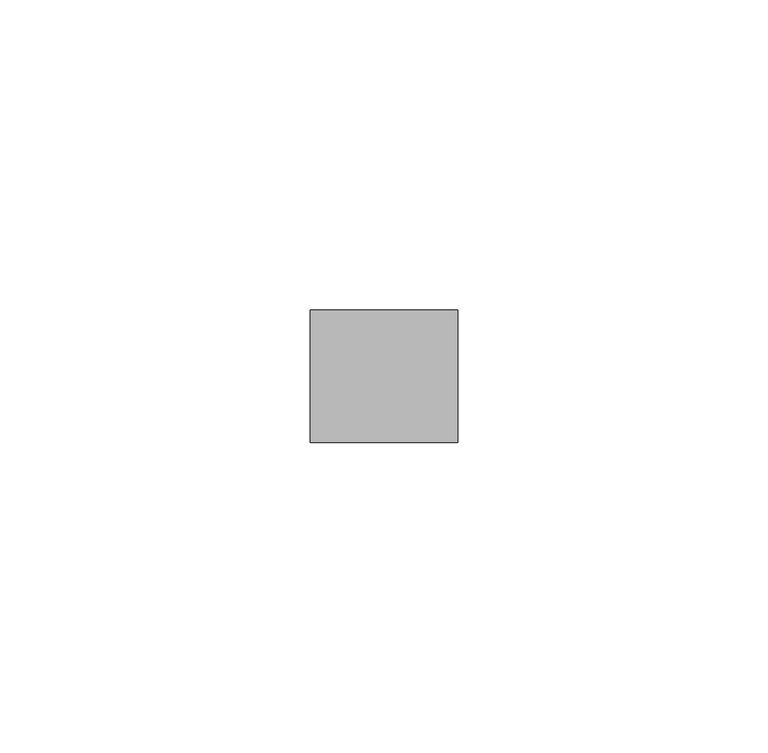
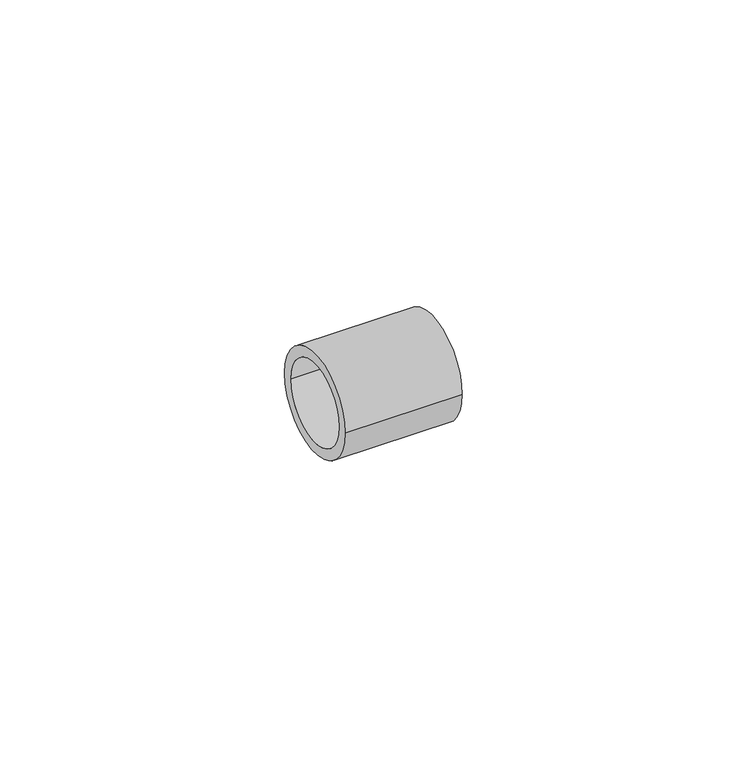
"""IFC4 building model written with IfcOpenShell, lengths in millimetres: pipe fitting geometry, RAUTITAN_Sleeve PX : RTI S PX."""

import ifcopenshell
import ifcopenshell.guid

model = None  # the IFC model being written
_history = None  # IfcOwnerHistory: only IFC2X3 demands one
_inside = {}  # id of a spatial element -> (the spatial element, [elements in it])
_under = {}  # id of a project, library or spatial element -> (it, [spatial elements below it])
_declared = {}  # id of a project -> (the project, [libraries it declares])
_typed = {}  # id of a type object -> (the type object, [elements of that type])
_made_of = {}  # id of a material, layer set ... -> (it, [elements and type objects made of it])


def new_model(schema):
    """Start an empty IFC model of exactly this schema.

    Asked for "IFC4X3", IfcOpenShell would pick the latest addendum, in which some entities
    have other attributes; the version numbers below select the first issue.
    IFC2X3 requires an IfcOwnerHistory on every rooted entity: one is made here for all.
    """
    global model, _history
    if schema == "IFC4X3":
        model = ifcopenshell.file(schema_version=(4, 3, 0, 0))
    else:
        model = ifcopenshell.file(schema=schema)
    _inside.clear()
    _under.clear()
    _declared.clear()
    _typed.clear()
    _made_of.clear()
    _history = None
    if model.schema == "IFC2X3":
        org = make("IfcOrganization", Name="unknown")
        user = make(
            "IfcPersonAndOrganization",
            ThePerson=make("IfcPerson", FamilyName="unknown"),
            TheOrganization=org,
        )
        app = make(
            "IfcApplication",
            ApplicationDeveloper=org,
            Version="unknown",
            ApplicationFullName="unknown",
            ApplicationIdentifier="unknown",
        )
        _history = make(
            "IfcOwnerHistory",
            OwningUser=user,
            OwningApplication=app,
            ChangeAction="ADDED",
            CreationDate=0,
        )
    return model


def make(cls, **values):
    """One entity of the class cls with the attributes given. An attribute that is None is left unset."""
    return model.create_entity(
        cls, **{name: value for name, value in values.items() if value is not None}
    )


def rooted(cls, **values):
    """An entity with a GlobalId (a new one), such as an element, a storey or a relation."""
    return make(cls, GlobalId=ifcopenshell.guid.new(), OwnerHistory=_history, **values)


def si_unit(unit_type, name, prefix=None):
    """IfcSIUnit, for example si_unit("LENGTHUNIT", "METRE", prefix="MILLI")."""
    return make("IfcSIUnit", UnitType=unit_type, Prefix=prefix, Name=name)


def assignment(units):
    """IfcUnitAssignment: the units of a project."""
    return None if units is None else make("IfcUnitAssignment", Units=units)


def point(xyz):
    """IfcCartesianPoint."""
    return None if xyz is None else make("IfcCartesianPoint", Coordinates=xyz)


def direction(xyz):
    """IfcDirection."""
    return None if xyz is None else make("IfcDirection", DirectionRatios=xyz)


def frame(location, z_axis=None, x_axis=None):
    """IfcAxis2Placement3D, a coordinate frame: its origin and axes. An axis left out is left unset."""
    return make(
        "IfcAxis2Placement3D",
        Location=point(location),
        Axis=direction(z_axis),
        RefDirection=direction(x_axis),
    )


def frame_2d(location, x_axis=None):
    """IfcAxis2Placement2D, a coordinate frame in the plane: its origin and x axis."""
    return make(
        "IfcAxis2Placement2D", Location=point(location), RefDirection=direction(x_axis)
    )


def origin():
    """The frame at (0, 0, 0) with its axes left unset."""
    return frame((0.0, 0.0, 0.0))


def origin_2d():
    """The frame at (0, 0) in the plane with its x axis left unset."""
    return frame_2d((0.0, 0.0))


def place(relative_to, where):
    """IfcLocalPlacement: puts the frame where relative to a parent placement (None: the world)."""
    return make(
        "IfcLocalPlacement", PlacementRelTo=relative_to, RelativePlacement=where
    )


def context(
    kind, dimensions, precision=None, world=None, true_north=None, identifier=None
):
    """IfcGeometricRepresentationContext, for example the 3D "Model" context."""
    return make(
        "IfcGeometricRepresentationContext",
        ContextIdentifier=identifier,
        ContextType=kind,
        CoordinateSpaceDimension=dimensions,
        Precision=precision,
        WorldCoordinateSystem=world,
        TrueNorth=true_north,
    )


def project(units=None, contexts=None):
    """IfcProject with its units and contexts."""
    return rooted(
        "IfcProject",
        Name="project",
        RepresentationContexts=contexts,
        UnitsInContext=assignment(units),
    )


def spatial(cls, under=None, at=None, **own):
    """A site, building, storey or space (cls), placed at a placement, below another one or the project."""
    s = rooted(cls, ObjectPlacement=at, **own)
    if under is not None:
        _under.setdefault(under.id(), (under, []))[1].append(s)
    return s


def circle_curve(where, radius):
    """IfcCircle in the frame where."""
    return make("IfcCircle", Position=where, Radius=radius)


def trimmed(basis, trim1, trim2, sense, master):
    """IfcTrimmedCurve: the piece of a basis curve between two trims."""
    return make(
        "IfcTrimmedCurve",
        BasisCurve=basis,
        Trim1=trim1,
        Trim2=trim2,
        SenseAgreement=sense,
        MasterRepresentation=master,
    )


def segment(curve, same_sense, transition):
    """IfcCompositeCurveSegment."""
    return make(
        "IfcCompositeCurveSegment",
        Transition=transition,
        SameSense=same_sense,
        ParentCurve=curve,
    )


def composite_curve(segments, self_intersect=None):
    """IfcCompositeCurve: segments joined end to end."""
    return make("IfcCompositeCurve", Segments=segments, SelfIntersect=self_intersect)


def outline(outer, holes=None, kind="AREA"):
    """IfcArbitraryClosedProfileDef: a profile drawn as a closed curve; with holes, ...WithVoids."""
    if holes is None:
        return make("IfcArbitraryClosedProfileDef", ProfileType=kind, OuterCurve=outer)
    return make(
        "IfcArbitraryProfileDefWithVoids",
        ProfileType=kind,
        OuterCurve=outer,
        InnerCurves=holes,
    )


def extrude(swept, where, along, depth):
    """IfcExtrudedAreaSolid: the profile swept, set in the frame where, extruded along a direction by depth."""
    return make(
        "IfcExtrudedAreaSolid",
        SweptArea=swept,
        Position=where,
        ExtrudedDirection=direction(along),
        Depth=depth,
    )


def shape(context_of_items, identifier, shape_type, items):
    """IfcShapeRepresentation: the items that make up one representation, for example the "Body"."""
    return make(
        "IfcShapeRepresentation",
        ContextOfItems=context_of_items,
        RepresentationIdentifier=identifier,
        RepresentationType=shape_type,
        Items=items,
    )


def source(mapping_origin, context_of_items, identifier, shape_type, items):
    """IfcRepresentationMap: a shape defined once, which mapped items show again and again."""
    return make(
        "IfcRepresentationMap",
        MappingOrigin=mapping_origin,
        MappedRepresentation=shape(context_of_items, identifier, shape_type, items),
    )


def transform(
    local_origin,
    x_axis=None,
    y_axis=None,
    z_axis=None,
    scale=None,
    scale2=None,
    scale3=None,
    uniform=True,
):
    """IfcCartesianTransformationOperator3D, or its non-uniform kind. x_axis, y_axis, z_axis: its Axis1, 2, 3."""
    if uniform:
        return make(
            "IfcCartesianTransformationOperator3D",
            Axis1=direction(x_axis),
            Axis2=direction(y_axis),
            LocalOrigin=point(local_origin),
            Scale=scale,
            Axis3=direction(z_axis),
        )
    return make(
        "IfcCartesianTransformationOperator3DnonUniform",
        Axis1=direction(x_axis),
        Axis2=direction(y_axis),
        LocalOrigin=point(local_origin),
        Scale=scale,
        Axis3=direction(z_axis),
        Scale2=scale2,
        Scale3=scale3,
    )


def mapped(mapping_source, mapping_target):
    """IfcMappedItem: shows the shape of a source again, moved by a transform."""
    return make(
        "IfcMappedItem", MappingSource=mapping_source, MappingTarget=mapping_target
    )


def made_of(thing, what):
    """Note that an element or type object is made of a material, layer set ...; save() writes the relation."""
    if what is not None:
        _made_of.setdefault(what.id(), (what, []))[1].append(thing)
    return thing


def element(
    cls,
    number,
    at=None,
    inside=None,
    cuts=None,
    type_object=None,
    material=None,
    context=None,
    identifier="Body",
    shape_type=None,
    held_by="IfcProductDefinitionShape",
    body=None,
    shapes=None,
    **own,
):
    """One element of the class cls, such as IfcWall. Its Tag is "e" and its number.

    at: its placement. inside: the storey or other place that contains it. cuts: it is an
    opening in that element (IfcRelVoidsElement). A single representation is given by context,
    identifier, shape_type and body (its items); several are given by shapes. held_by: the class
    of the entity that holds the representations. save() writes the other relations.
    """
    e = rooted(cls, Tag="e%d" % number, ObjectPlacement=at, **own)
    if body is not None:
        shapes = [shape(context, identifier, shape_type, body)]
    if shapes is not None:
        e.Representation = make(held_by, Representations=shapes)
    if inside is not None:
        _inside.setdefault(inside.id(), (inside, []))[1].append(e)
    if cuts is not None:
        rooted(
            "IfcRelVoidsElement", RelatingBuildingElement=cuts, RelatedOpeningElement=e
        )
    if type_object is not None:
        _typed.setdefault(type_object.id(), (type_object, []))[1].append(e)
    return made_of(e, material)


def aggregate(whole, parts):
    """IfcRelAggregates: a whole, such as a stair, and the parts it consists of."""
    return rooted("IfcRelAggregates", RelatingObject=whole, RelatedObjects=parts)


def save(model, path):
    """Write the relations noted so far, then the file.

    IfcRelAggregates (storeys below a building ...), IfcRelContainedInSpatialStructure (elements
    in a storey), IfcRelDefinesByType, IfcRelAssociatesMaterial and IfcRelDeclares: one each for
    every whole, place, type object, material and project.
    """
    for whole, parts in _under.values():
        aggregate(whole, parts)
    for where, things in _inside.values():
        rooted(
            "IfcRelContainedInSpatialStructure",
            RelatedElements=things,
            RelatingStructure=where,
        )
    for kind, things in _typed.values():
        rooted("IfcRelDefinesByType", RelatedObjects=things, RelatingType=kind)
    for what, things in _made_of.values():
        rooted("IfcRelAssociatesMaterial", RelatedObjects=things, RelatingMaterial=what)
    for by, libraries in _declared.values():
        rooted("IfcRelDeclares", RelatingContext=by, RelatedDefinitions=libraries)
    model.write(path)


def pipe_fitting_c9c9eba3(model_context):
    return source(origin(), model_context, "Body", "SweptSolid", [
        extrude(outline(composite_curve([segment(trimmed(circle_curve(origin_2d(), 10.65), [point((-10.65, 0.0))], [point((10.65, 0.0))], False, "CARTESIAN"), True, "CONTINUOUS"), segment(trimmed(circle_curve(origin_2d(), 10.65), [point((10.65, 0.0))], [point((-10.65, 0.0))], False, "CARTESIAN"), True, "CONTINUOUS")], self_intersect=False), holes=[composite_curve([segment(trimmed(circle_curve(origin_2d(), 8.45), [point((-8.45, 0.0))], [point((8.45, 0.0))], True, "CARTESIAN"), True, "CONTINUOUS"), segment(trimmed(circle_curve(origin_2d(), 8.45), [point((8.45, 0.0))], [point((-8.45, 0.0))], True, "CARTESIAN"), True, "CONTINUOUS")], self_intersect=False)]), frame((0.0, 0.0, 0.0), z_axis=(1.0, 0.0, 0.0), x_axis=(0.0, 1.0, 0.0)), (0.0, 0.0, 1.0), 23.7),
    ])


if __name__ == "__main__":
    model = new_model("IFC4")
    model_context = context("Model", 3, world=origin())
    ifc_project = project(units=[si_unit("LENGTHUNIT", "METRE", prefix="MILLI")], contexts=[model_context])
    site = spatial("IfcSite", under=ifc_project)
    building = spatial("IfcBuilding", under=site)
    placement = place(None, origin())
    pipe_fitting_shape = pipe_fitting_c9c9eba3(model_context)
    element("IfcPipeFitting", 1, ObjectType="RAUTITAN_Sleeve PX : RTI S PX", at=placement, inside=building, context=model_context, shape_type="MappedRepresentation", body=[
        mapped(pipe_fitting_shape, transform((0.0, 0.0, 0.0), x_axis=(1.0, 0.0, 0.0), y_axis=(0.0, 1.0, 0.0), z_axis=(0.0, 0.0, 1.0))),
    ])
    save(model, "model.ifc")
